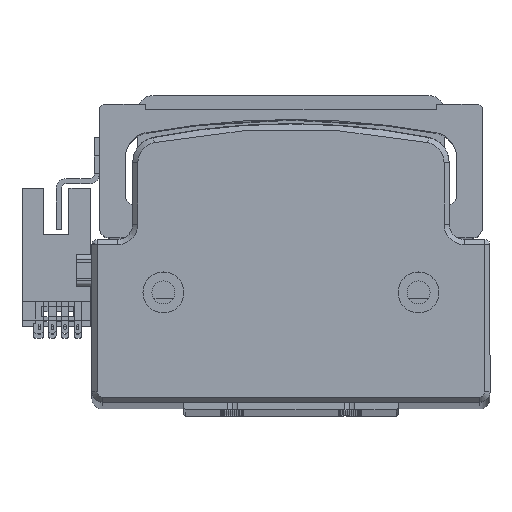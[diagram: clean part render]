
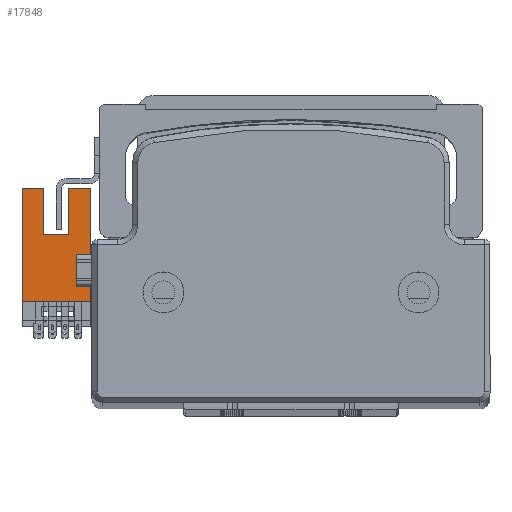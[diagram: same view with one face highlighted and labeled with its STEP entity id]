
A CAD part, top view. The second image highlights one B-rep face of the part: STEP entity #17848.
In plain terms, the highlighted planar face has unit normal (0, 0, 1) as drawn and (1, 0, 0) by its records, which use the part's own axes.
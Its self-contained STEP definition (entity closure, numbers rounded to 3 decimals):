
#436 = CARTESIAN_POINT ( 'NONE',  ( 3.2, -6.85, 0. ) ) ;
#633 = EDGE_CURVE ( 'NONE', #36827, #47002, #39935, .T. ) ;
#2184 = CARTESIAN_POINT ( 'NONE',  ( 3.2, 3.85, 9.2 ) ) ;
#3255 = LINE ( 'NONE', #37954, #48542 ) ;
#3372 = VERTEX_POINT ( 'NONE', #5328 ) ;
#3416 = DIRECTION ( 'NONE',  ( 0., -1., 0. ) ) ;
#3423 = VECTOR ( 'NONE', #34731, 1000. ) ;
#3552 = CARTESIAN_POINT ( 'NONE',  ( 3.2, 3.85, 0. ) ) ;
#3571 = DIRECTION ( 'NONE',  ( 0., 1., 0. ) ) ;
#3961 = DIRECTION ( 'NONE',  ( 0., -1., 0. ) ) ;
#4090 = EDGE_LOOP ( 'NONE', ( #18172, #40156, #26596, #37700, #13560, #18805, #25778, #25539, #31965, #28454, #37840, #32497 ) ) ;
#4330 = VERTEX_POINT ( 'NONE', #30333 ) ;
#5154 = CARTESIAN_POINT ( 'NONE',  ( 3.2, -2.65, 22.2 ) ) ;
#5328 = CARTESIAN_POINT ( 'NONE',  ( 3.2, 6.55, 9.2 ) ) ;
#5423 = CARTESIAN_POINT ( 'NONE',  ( 3.2, -6.85, 22.2 ) ) ;
#5566 = EDGE_CURVE ( 'NONE', #3372, #12387, #28346, .T. ) ;
#5702 = VERTEX_POINT ( 'NONE', #24505 ) ;
#6447 = VERTEX_POINT ( 'NONE', #5154 ) ;
#6805 = EDGE_CURVE ( 'NONE', #4330, #12036, #11038, .T. ) ;
#7313 = VECTOR ( 'NONE', #3416, 1000. ) ;
#7354 = DIRECTION ( 'NONE',  ( 1., 0., 0. ) ) ;
#7601 = LINE ( 'NONE', #27732, #46404 ) ;
#8200 = CARTESIAN_POINT ( 'NONE',  ( 3.2, 6.55, 3. ) ) ;
#8361 = DIRECTION ( 'NONE',  ( 0., 1., 0. ) ) ;
#9180 = EDGE_CURVE ( 'NONE', #5702, #6447, #16683, .T. ) ;
#10175 = VECTOR ( 'NONE', #27537, 1000. ) ;
#11038 = LINE ( 'NONE', #22397, #39834 ) ;
#11529 = VERTEX_POINT ( 'NONE', #33189 ) ;
#11689 = DIRECTION ( 'NONE',  ( 0., 0., 1. ) ) ;
#11934 = LINE ( 'NONE', #33837, #30728 ) ;
#12022 = VECTOR ( 'NONE', #3961, 1000. ) ;
#12036 = VERTEX_POINT ( 'NONE', #2184 ) ;
#12160 = CARTESIAN_POINT ( 'NONE',  ( 3.2, 6.55, 0. ) ) ;
#12226 = CARTESIAN_POINT ( 'NONE',  ( 3.2, 3.85, 0. ) ) ;
#12387 = VERTEX_POINT ( 'NONE', #41928 ) ;
#12778 = DIRECTION ( 'NONE',  ( 0., 0., 1. ) ) ;
#12937 = VERTEX_POINT ( 'NONE', #13460 ) ;
#13460 = CARTESIAN_POINT ( 'NONE',  ( 3.2, 2.35, 22.2 ) ) ;
#13560 = ORIENTED_EDGE ( 'NONE', *, *, #18087, .T. ) ;
#13667 = EDGE_CURVE ( 'NONE', #42401, #36827, #43396, .T. ) ;
#16683 = LINE ( 'NONE', #40436, #45425 ) ;
#17848 = ADVANCED_FACE ( 'NONE', ( #45256 ), #26081, .T. ) ;
#17983 = DIRECTION ( 'NONE',  ( 0., 0., 1. ) ) ;
#18087 = EDGE_CURVE ( 'NONE', #42401, #21797, #7601, .T. ) ;
#18172 = ORIENTED_EDGE ( 'NONE', *, *, #9180, .T. ) ;
#18805 = ORIENTED_EDGE ( 'NONE', *, *, #23366, .F. ) ;
#20152 = CARTESIAN_POINT ( 'NONE',  ( 3.2, 6.55, 0. ) ) ;
#21797 = VERTEX_POINT ( 'NONE', #8200 ) ;
#22397 = CARTESIAN_POINT ( 'NONE',  ( 3.2, 3.85, 0. ) ) ;
#22886 = CARTESIAN_POINT ( 'NONE',  ( 3.2, 3.85, 22.2 ) ) ;
#23366 = EDGE_CURVE ( 'NONE', #4330, #21797, #48524, .T. ) ;
#23723 = CARTESIAN_POINT ( 'NONE',  ( 3.2, 2.35, 13.2 ) ) ;
#23927 = EDGE_CURVE ( 'NONE', #12387, #12937, #41944, .T. ) ;
#24505 = CARTESIAN_POINT ( 'NONE',  ( 3.2, -2.65, 13.2 ) ) ;
#25074 = EDGE_CURVE ( 'NONE', #5702, #11529, #3255, .T. ) ;
#25539 = ORIENTED_EDGE ( 'NONE', *, *, #32008, .T. ) ;
#25778 = ORIENTED_EDGE ( 'NONE', *, *, #6805, .T. ) ;
#26081 = PLANE ( 'NONE',  #38654 ) ;
#26596 = ORIENTED_EDGE ( 'NONE', *, *, #633, .F. ) ;
#27169 = VECTOR ( 'NONE', #31279, 1000. ) ;
#27537 = DIRECTION ( 'NONE',  ( 0., 0., 1. ) ) ;
#27732 = CARTESIAN_POINT ( 'NONE',  ( 3.2, 6.55, 0. ) ) ;
#28346 = LINE ( 'NONE', #20152, #27169 ) ;
#28454 = ORIENTED_EDGE ( 'NONE', *, *, #23927, .T. ) ;
#30125 = EDGE_CURVE ( 'NONE', #6447, #47002, #38516, .T. ) ;
#30333 = CARTESIAN_POINT ( 'NONE',  ( 3.2, 3.85, 3. ) ) ;
#30728 = VECTOR ( 'NONE', #45131, 1000. ) ;
#31279 = DIRECTION ( 'NONE',  ( 0., 0., 1. ) ) ;
#31965 = ORIENTED_EDGE ( 'NONE', *, *, #5566, .T. ) ;
#32008 = EDGE_CURVE ( 'NONE', #12036, #3372, #11934, .T. ) ;
#32497 = ORIENTED_EDGE ( 'NONE', *, *, #25074, .F. ) ;
#33181 = CARTESIAN_POINT ( 'NONE',  ( 3.2, -6.85, 0. ) ) ;
#33189 = CARTESIAN_POINT ( 'NONE',  ( 3.2, 2.35, 13.2 ) ) ;
#33647 = DIRECTION ( 'NONE',  ( 0., 0., -1. ) ) ;
#33837 = CARTESIAN_POINT ( 'NONE',  ( 3.2, -6.85, 9.2 ) ) ;
#34731 = DIRECTION ( 'NONE',  ( 0., -1., 0. ) ) ;
#36827 = VERTEX_POINT ( 'NONE', #33181 ) ;
#37700 = ORIENTED_EDGE ( 'NONE', *, *, #13667, .F. ) ;
#37840 = ORIENTED_EDGE ( 'NONE', *, *, #44276, .F. ) ;
#37954 = CARTESIAN_POINT ( 'NONE',  ( 3.2, 2.35, 13.2 ) ) ;
#38516 = LINE ( 'NONE', #40900, #7313 ) ;
#38569 = VECTOR ( 'NONE', #3571, 1000. ) ;
#38654 = AXIS2_PLACEMENT_3D ( 'NONE', #3552, #7354, #33647 ) ;
#38787 = VECTOR ( 'NONE', #11689, 1000. ) ;
#39834 = VECTOR ( 'NONE', #41119, 1000. ) ;
#39935 = LINE ( 'NONE', #436, #38787 ) ;
#40117 = LINE ( 'NONE', #23723, #10175 ) ;
#40156 = ORIENTED_EDGE ( 'NONE', *, *, #30125, .T. ) ;
#40436 = CARTESIAN_POINT ( 'NONE',  ( 3.2, -2.65, 13.2 ) ) ;
#40900 = CARTESIAN_POINT ( 'NONE',  ( 3.2, 3.85, 22.2 ) ) ;
#41119 = DIRECTION ( 'NONE',  ( 0., 0., 1. ) ) ;
#41928 = CARTESIAN_POINT ( 'NONE',  ( 3.2, 6.55, 22.2 ) ) ;
#41944 = LINE ( 'NONE', #22886, #12022 ) ;
#42401 = VERTEX_POINT ( 'NONE', #12160 ) ;
#43396 = LINE ( 'NONE', #12226, #3423 ) ;
#44276 = EDGE_CURVE ( 'NONE', #11529, #12937, #40117, .T. ) ;
#45131 = DIRECTION ( 'NONE',  ( 0., 1., 0. ) ) ;
#45256 = FACE_OUTER_BOUND ( 'NONE', #4090, .T. ) ;
#45425 = VECTOR ( 'NONE', #17983, 1000. ) ;
#46404 = VECTOR ( 'NONE', #12778, 1000. ) ;
#47002 = VERTEX_POINT ( 'NONE', #5423 ) ;
#48524 = LINE ( 'NONE', #48605, #38569 ) ;
#48542 = VECTOR ( 'NONE', #8361, 1000. ) ;
#48605 = CARTESIAN_POINT ( 'NONE',  ( 3.2, 3.85, 3. ) ) ;
